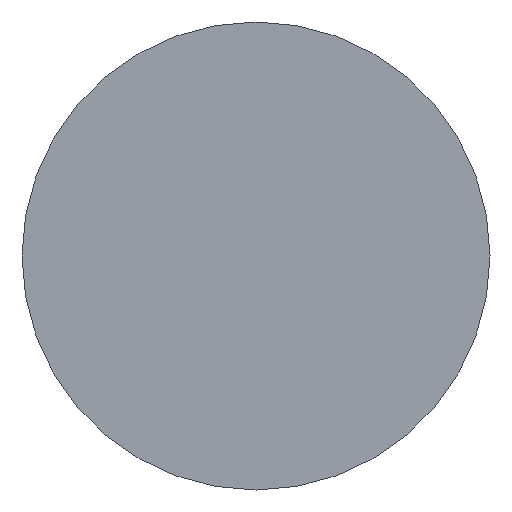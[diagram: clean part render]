
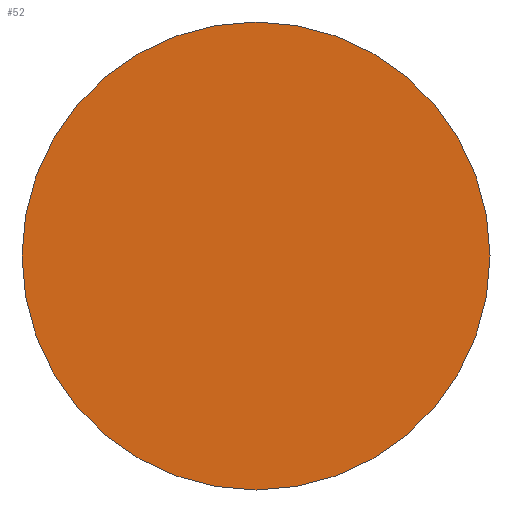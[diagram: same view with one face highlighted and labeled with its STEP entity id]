
A CAD part, left-side view. The second image highlights one B-rep face of the part: STEP entity #52.
In plain terms, the highlighted planar face has unit normal (-1, 0, 0).
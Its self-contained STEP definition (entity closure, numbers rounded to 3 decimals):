
#9 = DIRECTION ( 'NONE',  ( 1., 0., 0. ) ) ;
#23 = PLANE ( 'NONE',  #197 ) ;
#36 = CIRCLE ( 'NONE', #141, 8. ) ;
#38 = CARTESIAN_POINT ( 'NONE',  ( 0., 0., 0. ) ) ;
#45 = AXIS2_PLACEMENT_3D ( 'NONE', #38, #9, #115 ) ;
#48 = VERTEX_POINT ( 'NONE', #167 ) ;
#52 = ADVANCED_FACE ( 'NONE', ( #169 ), #23, .T. ) ;
#55 = DIRECTION ( 'NONE',  ( 1., 0., 0. ) ) ;
#115 = DIRECTION ( 'NONE',  ( 0., 1., 0. ) ) ;
#139 = CIRCLE ( 'NONE', #45, 8. ) ;
#141 = AXIS2_PLACEMENT_3D ( 'NONE', #171, #55, #266 ) ;
#144 = DIRECTION ( 'NONE',  ( -1., 0., 0. ) ) ;
#151 = CARTESIAN_POINT ( 'NONE',  ( 0., -8., 0. ) ) ;
#155 = DIRECTION ( 'NONE',  ( 0., -1., 0. ) ) ;
#167 = CARTESIAN_POINT ( 'NONE',  ( 0., 8., 0. ) ) ;
#169 = FACE_OUTER_BOUND ( 'NONE', #270, .T. ) ;
#171 = CARTESIAN_POINT ( 'NONE',  ( 0., 0., 0. ) ) ;
#177 = CARTESIAN_POINT ( 'NONE',  ( 0., 0., 0. ) ) ;
#180 = EDGE_CURVE ( 'NONE', #48, #201, #36, .T. ) ;
#190 = ORIENTED_EDGE ( 'NONE', *, *, #180, .F. ) ;
#197 = AXIS2_PLACEMENT_3D ( 'NONE', #177, #144, #155 ) ;
#201 = VERTEX_POINT ( 'NONE', #151 ) ;
#250 = ORIENTED_EDGE ( 'NONE', *, *, #255, .F. ) ;
#255 = EDGE_CURVE ( 'NONE', #201, #48, #139, .T. ) ;
#266 = DIRECTION ( 'NONE',  ( 0., 1., 0. ) ) ;
#270 = EDGE_LOOP ( 'NONE', ( #190, #250 ) ) ;
